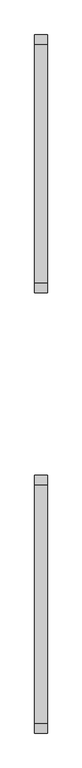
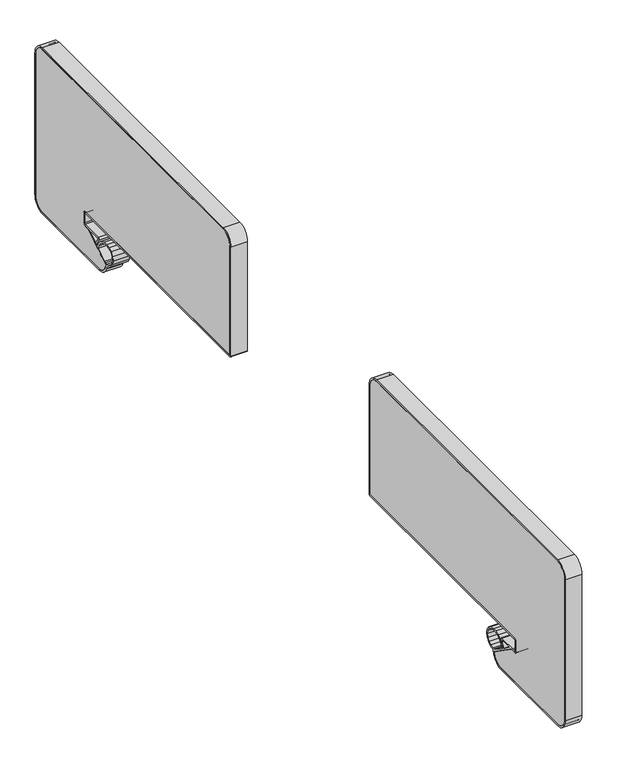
"""IFC4 building model written with IfcOpenShell, lengths in millimetres: furniture geometry, Vitra-Joyn_2-Accesories_rfa : Joyn 2 Platform - Side screen, dual."""

import ifcopenshell
import ifcopenshell.guid

model = None  # the IFC model being written
_history = None  # IfcOwnerHistory: only IFC2X3 demands one
_inside = {}  # id of a spatial element -> (the spatial element, [elements in it])
_under = {}  # id of a project, library or spatial element -> (it, [spatial elements below it])
_declared = {}  # id of a project -> (the project, [libraries it declares])
_typed = {}  # id of a type object -> (the type object, [elements of that type])
_made_of = {}  # id of a material, layer set ... -> (it, [elements and type objects made of it])


def new_model(schema):
    """Start an empty IFC model of exactly this schema.

    Asked for "IFC4X3", IfcOpenShell would pick the latest addendum, in which some entities
    have other attributes; the version numbers below select the first issue.
    IFC2X3 requires an IfcOwnerHistory on every rooted entity: one is made here for all.
    """
    global model, _history
    if schema == "IFC4X3":
        model = ifcopenshell.file(schema_version=(4, 3, 0, 0))
    else:
        model = ifcopenshell.file(schema=schema)
    _inside.clear()
    _under.clear()
    _declared.clear()
    _typed.clear()
    _made_of.clear()
    _history = None
    if model.schema == "IFC2X3":
        org = make("IfcOrganization", Name="unknown")
        user = make(
            "IfcPersonAndOrganization",
            ThePerson=make("IfcPerson", FamilyName="unknown"),
            TheOrganization=org,
        )
        app = make(
            "IfcApplication",
            ApplicationDeveloper=org,
            Version="unknown",
            ApplicationFullName="unknown",
            ApplicationIdentifier="unknown",
        )
        _history = make(
            "IfcOwnerHistory",
            OwningUser=user,
            OwningApplication=app,
            ChangeAction="ADDED",
            CreationDate=0,
        )
    return model


def make(cls, **values):
    """One entity of the class cls with the attributes given. An attribute that is None is left unset."""
    return model.create_entity(
        cls, **{name: value for name, value in values.items() if value is not None}
    )


def rooted(cls, **values):
    """An entity with a GlobalId (a new one), such as an element, a storey or a relation."""
    return make(cls, GlobalId=ifcopenshell.guid.new(), OwnerHistory=_history, **values)


def si_unit(unit_type, name, prefix=None):
    """IfcSIUnit, for example si_unit("LENGTHUNIT", "METRE", prefix="MILLI")."""
    return make("IfcSIUnit", UnitType=unit_type, Prefix=prefix, Name=name)


def assignment(units):
    """IfcUnitAssignment: the units of a project."""
    return None if units is None else make("IfcUnitAssignment", Units=units)


def point(xyz):
    """IfcCartesianPoint."""
    return None if xyz is None else make("IfcCartesianPoint", Coordinates=xyz)


def direction(xyz):
    """IfcDirection."""
    return None if xyz is None else make("IfcDirection", DirectionRatios=xyz)


def frame(location, z_axis=None, x_axis=None):
    """IfcAxis2Placement3D, a coordinate frame: its origin and axes. An axis left out is left unset."""
    return make(
        "IfcAxis2Placement3D",
        Location=point(location),
        Axis=direction(z_axis),
        RefDirection=direction(x_axis),
    )


def frame_2d(location, x_axis=None):
    """IfcAxis2Placement2D, a coordinate frame in the plane: its origin and x axis."""
    return make(
        "IfcAxis2Placement2D", Location=point(location), RefDirection=direction(x_axis)
    )


def origin():
    """The frame at (0, 0, 0) with its axes left unset."""
    return frame((0.0, 0.0, 0.0))


def place(relative_to, where):
    """IfcLocalPlacement: puts the frame where relative to a parent placement (None: the world)."""
    return make(
        "IfcLocalPlacement", PlacementRelTo=relative_to, RelativePlacement=where
    )


def context(
    kind, dimensions, precision=None, world=None, true_north=None, identifier=None
):
    """IfcGeometricRepresentationContext, for example the 3D "Model" context."""
    return make(
        "IfcGeometricRepresentationContext",
        ContextIdentifier=identifier,
        ContextType=kind,
        CoordinateSpaceDimension=dimensions,
        Precision=precision,
        WorldCoordinateSystem=world,
        TrueNorth=true_north,
    )


def project(units=None, contexts=None):
    """IfcProject with its units and contexts."""
    return rooted(
        "IfcProject",
        Name="project",
        RepresentationContexts=contexts,
        UnitsInContext=assignment(units),
    )


def spatial(cls, under=None, at=None, **own):
    """A site, building, storey or space (cls), placed at a placement, below another one or the project."""
    s = rooted(cls, ObjectPlacement=at, **own)
    if under is not None:
        _under.setdefault(under.id(), (under, []))[1].append(s)
    return s


def polyline(points):
    """IfcPolyline through the points."""
    return make("IfcPolyline", Points=[point(p) for p in points])


def circle_curve(where, radius):
    """IfcCircle in the frame where."""
    return make("IfcCircle", Position=where, Radius=radius)


def trimmed(basis, trim1, trim2, sense, master):
    """IfcTrimmedCurve: the piece of a basis curve between two trims."""
    return make(
        "IfcTrimmedCurve",
        BasisCurve=basis,
        Trim1=trim1,
        Trim2=trim2,
        SenseAgreement=sense,
        MasterRepresentation=master,
    )


def segment(curve, same_sense, transition):
    """IfcCompositeCurveSegment."""
    return make(
        "IfcCompositeCurveSegment",
        Transition=transition,
        SameSense=same_sense,
        ParentCurve=curve,
    )


def composite_curve(segments, self_intersect=None):
    """IfcCompositeCurve: segments joined end to end."""
    return make("IfcCompositeCurve", Segments=segments, SelfIntersect=self_intersect)


def outline(outer, holes=None, kind="AREA"):
    """IfcArbitraryClosedProfileDef: a profile drawn as a closed curve; with holes, ...WithVoids."""
    if holes is None:
        return make("IfcArbitraryClosedProfileDef", ProfileType=kind, OuterCurve=outer)
    return make(
        "IfcArbitraryProfileDefWithVoids",
        ProfileType=kind,
        OuterCurve=outer,
        InnerCurves=holes,
    )


def extrude(swept, where, along, depth):
    """IfcExtrudedAreaSolid: the profile swept, set in the frame where, extruded along a direction by depth."""
    return make(
        "IfcExtrudedAreaSolid",
        SweptArea=swept,
        Position=where,
        ExtrudedDirection=direction(along),
        Depth=depth,
    )


def shape(context_of_items, identifier, shape_type, items):
    """IfcShapeRepresentation: the items that make up one representation, for example the "Body"."""
    return make(
        "IfcShapeRepresentation",
        ContextOfItems=context_of_items,
        RepresentationIdentifier=identifier,
        RepresentationType=shape_type,
        Items=items,
    )


def source(mapping_origin, context_of_items, identifier, shape_type, items):
    """IfcRepresentationMap: a shape defined once, which mapped items show again and again."""
    return make(
        "IfcRepresentationMap",
        MappingOrigin=mapping_origin,
        MappedRepresentation=shape(context_of_items, identifier, shape_type, items),
    )


def transform(
    local_origin,
    x_axis=None,
    y_axis=None,
    z_axis=None,
    scale=None,
    scale2=None,
    scale3=None,
    uniform=True,
):
    """IfcCartesianTransformationOperator3D, or its non-uniform kind. x_axis, y_axis, z_axis: its Axis1, 2, 3."""
    if uniform:
        return make(
            "IfcCartesianTransformationOperator3D",
            Axis1=direction(x_axis),
            Axis2=direction(y_axis),
            LocalOrigin=point(local_origin),
            Scale=scale,
            Axis3=direction(z_axis),
        )
    return make(
        "IfcCartesianTransformationOperator3DnonUniform",
        Axis1=direction(x_axis),
        Axis2=direction(y_axis),
        LocalOrigin=point(local_origin),
        Scale=scale,
        Axis3=direction(z_axis),
        Scale2=scale2,
        Scale3=scale3,
    )


def mapped(mapping_source, mapping_target):
    """IfcMappedItem: shows the shape of a source again, moved by a transform."""
    return make(
        "IfcMappedItem", MappingSource=mapping_source, MappingTarget=mapping_target
    )


def made_of(thing, what):
    """Note that an element or type object is made of a material, layer set ...; save() writes the relation."""
    if what is not None:
        _made_of.setdefault(what.id(), (what, []))[1].append(thing)
    return thing


def element(
    cls,
    number,
    at=None,
    inside=None,
    cuts=None,
    type_object=None,
    material=None,
    context=None,
    identifier="Body",
    shape_type=None,
    held_by="IfcProductDefinitionShape",
    body=None,
    shapes=None,
    **own,
):
    """One element of the class cls, such as IfcWall. Its Tag is "e" and its number.

    at: its placement. inside: the storey or other place that contains it. cuts: it is an
    opening in that element (IfcRelVoidsElement). A single representation is given by context,
    identifier, shape_type and body (its items); several are given by shapes. held_by: the class
    of the entity that holds the representations. save() writes the other relations.
    """
    e = rooted(cls, Tag="e%d" % number, ObjectPlacement=at, **own)
    if body is not None:
        shapes = [shape(context, identifier, shape_type, body)]
    if shapes is not None:
        e.Representation = make(held_by, Representations=shapes)
    if inside is not None:
        _inside.setdefault(inside.id(), (inside, []))[1].append(e)
    if cuts is not None:
        rooted(
            "IfcRelVoidsElement", RelatingBuildingElement=cuts, RelatedOpeningElement=e
        )
    if type_object is not None:
        _typed.setdefault(type_object.id(), (type_object, []))[1].append(e)
    return made_of(e, material)


def aggregate(whole, parts):
    """IfcRelAggregates: a whole, such as a stair, and the parts it consists of."""
    return rooted("IfcRelAggregates", RelatingObject=whole, RelatedObjects=parts)


def save(model, path):
    """Write the relations noted so far, then the file.

    IfcRelAggregates (storeys below a building ...), IfcRelContainedInSpatialStructure (elements
    in a storey), IfcRelDefinesByType, IfcRelAssociatesMaterial and IfcRelDeclares: one each for
    every whole, place, type object, material and project.
    """
    for whole, parts in _under.values():
        aggregate(whole, parts)
    for where, things in _inside.values():
        rooted(
            "IfcRelContainedInSpatialStructure",
            RelatedElements=things,
            RelatingStructure=where,
        )
    for kind, things in _typed.values():
        rooted("IfcRelDefinesByType", RelatedObjects=things, RelatingType=kind)
    for what, things in _made_of.values():
        rooted("IfcRelAssociatesMaterial", RelatedObjects=things, RelatingMaterial=what)
    for by, libraries in _declared.values():
        rooted("IfcRelDeclares", RelatingContext=by, RelatedDefinitions=libraries)
    model.write(path)


def furniture_8c58d9b5(model_context):
    return source(origin(), model_context, "Body", "SweptSolid", [
        extrude(outline(composite_curve([segment(trimmed(circle_curve(frame_2d((-304.438008, 1007.00691)), 26.0), [point((-304.438008, 1033.00691))], [point((-278.438008, 1007.00691))], False, "CARTESIAN"), True, "CONTINUOUS"), segment(polyline([(-278.438008, 1007.00691), (-278.438008, 744.0002894), (-852.0000768, 744.0002894)]), True, "CONTINUOUS"), segment(trimmed(circle_curve(frame_2d((-852.0000768, 737.5002894)), 6.5), [point((-852.0000768, 744.0002894))], [point((-858.5000768, 737.5002894))], True, "CARTESIAN"), True, "CONTINUOUS"), segment(polyline([(-858.5000768, 737.5002894), (-858.5000768, 715.0)]), True, "CONTINUOUS"), segment(trimmed(circle_curve(frame_2d((-852.0000768, 715.0)), 6.5), [point((-858.5000768, 715.0))], [point((-852.0000768, 708.5))], True, "CARTESIAN"), True, "CONTINUOUS"), segment(polyline([(-852.0000768, 708.5), (-837.7490284, 708.5), (-771.6733848, 662.1205445)]), True, "CONTINUOUS"), segment(trimmed(circle_curve(frame_2d((-797.6774764, 665.1686456)), 26.1821256), [point((-771.6733848, 662.1205445))], [point((-797.6774764, 638.98652))], False, "CARTESIAN"), True, "CONTINUOUS"), segment(polyline([(-797.6774764, 638.98652), (-1022.440688, 638.98652)]), True, "CONTINUOUS"), segment(trimmed(circle_curve(frame_2d((-1022.440688, 664.98652)), 26.0), [point((-1022.440688, 638.98652))], [point((-1048.440688, 664.98652))], False, "CARTESIAN"), True, "CONTINUOUS"), segment(polyline([(-1048.440688, 664.98652), (-1048.440688, 1007.00691)]), True, "CONTINUOUS"), segment(trimmed(circle_curve(frame_2d((-1022.440688, 1007.00691)), 26.0), [point((-1048.440688, 1007.00691))], [point((-1022.440688, 1033.00691))], False, "CARTESIAN"), True, "CONTINUOUS"), segment(polyline([(-1022.440688, 1033.00691), (-304.438008, 1033.00691)]), True, "CONTINUOUS")], self_intersect=False)), frame((-19.0, 0.0, 0.0), z_axis=(1.0, 0.0, 0.0), x_axis=(0.0, 1.0, 0.0)), (0.0, 0.0, 1.0), 38.0),
        extrude(outline(composite_curve([segment(trimmed(circle_curve(frame_2d((-278.438008, 744.0002894)), 4.0), [point((-274.438008, 744.0002894))], [point((-278.438008, 740.0002894))], False, "CARTESIAN"), True, "CONTINUOUS"), segment(polyline([(-278.438008, 740.0002894), (-852.0000768, 740.0002894)]), True, "CONTINUOUS"), segment(trimmed(circle_curve(frame_2d((-852.0000768, 737.5002894)), 2.5), [point((-852.0000768, 740.0002894))], [point((-854.5000768, 737.5002894))], True, "CARTESIAN"), True, "CONTINUOUS"), segment(polyline([(-854.5000768, 737.5002894), (-854.5000768, 715.0)]), True, "CONTINUOUS"), segment(trimmed(circle_curve(frame_2d((-852.0000768, 715.0)), 2.5), [point((-854.5000768, 715.0))], [point((-852.0000768, 712.5))], True, "CARTESIAN"), True, "CONTINUOUS"), segment(polyline([(-852.0000768, 712.5), (-801.2274653, 712.5)]), True, "CONTINUOUS"), segment(trimmed(circle_curve(frame_2d((-801.2274653, 709.0)), 3.5), [point((-801.2274653, 712.5))], [point((-798.5846298, 706.7053495))], False, "CARTESIAN"), True, "CONTINUOUS"), segment(trimmed(circle_curve(frame_2d((-765.6595158, 678.1180127)), 43.603887), [point((-798.5846298, 706.7053495))], [point((-807.0632976, 691.7937507))], True, "CARTESIAN"), True, "CONTINUOUS"), segment(polyline([(-807.0632976, 691.7937507), (-803.7351207, 689.4633361), (-800.476099, 696.709743), (-794.650393, 705.115306), (-786.6638618, 711.6714181), (-776.41954, 715.0), (-766.719843, 715.0), (-756.981111, 713.241365), (-748.444508, 708.678315), (-743.069538, 700.266619), (-741.246608, 690.484562), (-743.187678, 680.726132), (-748.502728, 672.311559), (-756.940923, 666.571188), (-766.0871493, 663.5615666), (-769.374033, 654.68648)]), True, "CONTINUOUS"), segment(trimmed(circle_curve(frame_2d((-797.6774764, 665.1686456)), 30.1821256), [point((-769.374033, 654.68648))], [point((-797.6774764, 634.98652))], False, "CARTESIAN"), True, "CONTINUOUS"), segment(polyline([(-797.6774764, 634.98652), (-1022.440688, 634.98652)]), True, "CONTINUOUS"), segment(trimmed(circle_curve(frame_2d((-1022.440688, 664.98652)), 30.0), [point((-1022.440688, 634.98652))], [point((-1052.440688, 664.98652))], False, "CARTESIAN"), True, "CONTINUOUS"), segment(polyline([(-1052.440688, 664.98652), (-1052.440688, 1007.00691)]), True, "CONTINUOUS"), segment(trimmed(circle_curve(frame_2d((-1022.440688, 1007.00691)), 30.0), [point((-1052.440688, 1007.00691))], [point((-1022.440688, 1037.00691))], False, "CARTESIAN"), True, "CONTINUOUS"), segment(polyline([(-1022.440688, 1037.00691), (-304.438008, 1037.00691)]), True, "CONTINUOUS"), segment(trimmed(circle_curve(frame_2d((-304.438008, 1007.00691)), 30.0), [point((-304.438008, 1037.00691))], [point((-274.438008, 1007.00691))], False, "CARTESIAN"), True, "CONTINUOUS"), segment(polyline([(-274.438008, 1007.00691), (-274.438008, 744.0002894)]), True, "CONTINUOUS")], self_intersect=False), holes=[polyline([(-758.455683, 670.194316), (-751.433158, 675.028825), (-746.883208, 682.256866), (-745.246618, 690.484562), (-746.883208, 698.712254), (-751.366128, 705.845311), (-758.525577, 709.479623), (-766.702333, 710.910785), (-775.315629, 711.031199), (-784.421373, 708.1564), (-791.618238, 702.611651), (-796.863471, 694.992504), (-799.826408, 686.768579), (-775.132395, 669.435492), (-771.209808, 668.512387), (-766.746612, 668.09927), (-758.455683, 670.194316)]), composite_curve([segment(polyline([(-1022.440688, 638.98652), (-797.6774764, 638.98652)]), True, "CONTINUOUS"), segment(trimmed(circle_curve(frame_2d((-797.6774764, 665.1686456)), 26.1821256), [point((-797.6774764, 638.98652))], [point((-771.6733848, 662.1205445))], True, "CARTESIAN"), True, "CONTINUOUS"), segment(polyline([(-771.6733848, 662.1205445), (-837.7490284, 708.5), (-852.0000768, 708.5)]), True, "CONTINUOUS"), segment(trimmed(circle_curve(frame_2d((-852.0000768, 715.0)), 6.5), [point((-852.0000768, 708.5))], [point((-858.5000768, 715.0))], False, "CARTESIAN"), True, "CONTINUOUS"), segment(polyline([(-858.5000768, 715.0), (-858.5000768, 737.5002894)]), True, "CONTINUOUS"), segment(trimmed(circle_curve(frame_2d((-852.0000768, 737.5002894)), 6.5), [point((-858.5000768, 737.5002894))], [point((-852.0000768, 744.0002894))], False, "CARTESIAN"), True, "CONTINUOUS"), segment(polyline([(-852.0000768, 744.0002894), (-278.438008, 744.0002894), (-278.438008, 1007.00691)]), True, "CONTINUOUS"), segment(trimmed(circle_curve(frame_2d((-304.438008, 1007.00691)), 26.0), [point((-278.438008, 1007.00691))], [point((-304.438008, 1033.00691))], True, "CARTESIAN"), True, "CONTINUOUS"), segment(polyline([(-304.438008, 1033.00691), (-1022.440688, 1033.00691)]), True, "CONTINUOUS"), segment(trimmed(circle_curve(frame_2d((-1022.440688, 1007.00691)), 26.0), [point((-1022.440688, 1033.00691))], [point((-1048.440688, 1007.00691))], True, "CARTESIAN"), True, "CONTINUOUS"), segment(polyline([(-1048.440688, 1007.00691), (-1048.440688, 664.98652)]), True, "CONTINUOUS"), segment(trimmed(circle_curve(frame_2d((-1022.440688, 664.98652)), 26.0), [point((-1048.440688, 664.98652))], [point((-1022.440688, 638.98652))], True, "CARTESIAN"), True, "CONTINUOUS")], self_intersect=False), composite_curve([segment(trimmed(circle_curve(frame_2d((-765.6595158, 678.1180127)), 47.603887), [point((-810.4734399, 694.1754801))], [point((-803.6988247, 706.7386527))], False, "CARTESIAN"), True, "CONTINUOUS"), segment(trimmed(circle_curve(frame_2d((-804.5778126, 707.4)), 1.1), [point((-803.6988247, 706.7386527))], [point((-804.5778126, 708.5))], True, "CARTESIAN"), True, "CONTINUOUS"), segment(polyline([(-804.5778126, 708.5), (-828.4020148, 708.5), (-828.4020148, 706.7352426), (-810.4734399, 694.1754801)]), True, "CONTINUOUS")], self_intersect=False)]), frame((-19.0, 0.0, 0.0), z_axis=(1.0, 0.0, 0.0), x_axis=(0.0, 1.0, 0.0)), (0.0, 0.0, 1.0), 38.0),
        extrude(outline(composite_curve([segment(polyline([(304.438008, 1033.00691), (1022.440688, 1033.00691)]), True, "CONTINUOUS"), segment(trimmed(circle_curve(frame_2d((1022.440688, 1007.00691)), 26.0), [point((1022.440688, 1033.00691))], [point((1048.440688, 1007.00691))], False, "CARTESIAN"), True, "CONTINUOUS"), segment(polyline([(1048.440688, 1007.00691), (1048.440688, 664.98652)]), True, "CONTINUOUS"), segment(trimmed(circle_curve(frame_2d((1022.440688, 664.98652)), 26.0), [point((1048.440688, 664.98652))], [point((1022.440688, 638.98652))], False, "CARTESIAN"), True, "CONTINUOUS"), segment(polyline([(1022.440688, 638.98652), (797.6774764, 638.98652)]), True, "CONTINUOUS"), segment(trimmed(circle_curve(frame_2d((797.6774764, 665.1686456)), 26.1821256), [point((797.6774764, 638.98652))], [point((771.6733848, 662.1205445))], False, "CARTESIAN"), True, "CONTINUOUS"), segment(polyline([(771.6733848, 662.1205445), (837.7490284, 708.5), (852.0000768, 708.5)]), True, "CONTINUOUS"), segment(trimmed(circle_curve(frame_2d((852.0000768, 715.0)), 6.5), [point((852.0000768, 708.5))], [point((858.5000768, 715.0))], True, "CARTESIAN"), True, "CONTINUOUS"), segment(polyline([(858.5000768, 715.0), (858.5000768, 737.5002894)]), True, "CONTINUOUS"), segment(trimmed(circle_curve(frame_2d((852.0000768, 737.5002894)), 6.5), [point((858.5000768, 737.5002894))], [point((852.0000768, 744.0002894))], True, "CARTESIAN"), True, "CONTINUOUS"), segment(polyline([(852.0000768, 744.0002894), (278.438008, 744.0002894), (278.438008, 1007.00691)]), True, "CONTINUOUS"), segment(trimmed(circle_curve(frame_2d((304.438008, 1007.00691)), 26.0), [point((278.438008, 1007.00691))], [point((304.438008, 1033.00691))], False, "CARTESIAN"), True, "CONTINUOUS")], self_intersect=False)), frame((-19.0, 0.0, 0.0), z_axis=(1.0, 0.0, 0.0), x_axis=(0.0, 1.0, 0.0)), (0.0, 0.0, 1.0), 38.0),
        extrude(outline(composite_curve([segment(polyline([(274.438008, 744.0002894), (274.438008, 1007.00691)]), True, "CONTINUOUS"), segment(trimmed(circle_curve(frame_2d((304.438008, 1007.00691)), 30.0), [point((274.438008, 1007.00691))], [point((304.438008, 1037.00691))], False, "CARTESIAN"), True, "CONTINUOUS"), segment(polyline([(304.438008, 1037.00691), (1022.440688, 1037.00691)]), True, "CONTINUOUS"), segment(trimmed(circle_curve(frame_2d((1022.440688, 1007.00691)), 30.0), [point((1022.440688, 1037.00691))], [point((1052.440688, 1007.00691))], False, "CARTESIAN"), True, "CONTINUOUS"), segment(polyline([(1052.440688, 1007.00691), (1052.440688, 664.98652)]), True, "CONTINUOUS"), segment(trimmed(circle_curve(frame_2d((1022.440688, 664.98652)), 30.0), [point((1052.440688, 664.98652))], [point((1022.440688, 634.98652))], False, "CARTESIAN"), True, "CONTINUOUS"), segment(polyline([(1022.440688, 634.98652), (797.6774764, 634.98652)]), True, "CONTINUOUS"), segment(trimmed(circle_curve(frame_2d((797.6774764, 665.1686456)), 30.1821256), [point((797.6774764, 634.98652))], [point((769.374033, 654.68648))], False, "CARTESIAN"), True, "CONTINUOUS"), segment(polyline([(769.374033, 654.68648), (766.0871493, 663.5615666), (756.940923, 666.571188), (748.502728, 672.311559), (743.187678, 680.726132), (741.246608, 690.484562), (743.069538, 700.266619), (748.444508, 708.678315), (756.981111, 713.241365), (766.719843, 715.0), (776.41954, 715.0), (786.6638618, 711.6714181), (794.650393, 705.115306), (800.476099, 696.709743), (803.7351207, 689.4633361), (807.0632976, 691.7937507)]), True, "CONTINUOUS"), segment(trimmed(circle_curve(frame_2d((765.6595158, 678.1180127)), 43.603887), [point((807.0632976, 691.7937507))], [point((798.5846298, 706.7053495))], True, "CARTESIAN"), True, "CONTINUOUS"), segment(trimmed(circle_curve(frame_2d((801.2274653, 709.0)), 3.5), [point((798.5846298, 706.7053495))], [point((801.2274653, 712.5))], False, "CARTESIAN"), True, "CONTINUOUS"), segment(polyline([(801.2274653, 712.5), (852.0000768, 712.5)]), True, "CONTINUOUS"), segment(trimmed(circle_curve(frame_2d((852.0000768, 715.0)), 2.5), [point((852.0000768, 712.5))], [point((854.5000768, 715.0))], True, "CARTESIAN"), True, "CONTINUOUS"), segment(polyline([(854.5000768, 715.0), (854.5000768, 737.5002894)]), True, "CONTINUOUS"), segment(trimmed(circle_curve(frame_2d((852.0000768, 737.5002894)), 2.5), [point((854.5000768, 737.5002894))], [point((852.0000768, 740.0002894))], True, "CARTESIAN"), True, "CONTINUOUS"), segment(polyline([(852.0000768, 740.0002894), (278.438008, 740.0002894)]), True, "CONTINUOUS"), segment(trimmed(circle_curve(frame_2d((278.438008, 744.0002894)), 4.0), [point((278.438008, 740.0002894))], [point((274.438008, 744.0002894))], False, "CARTESIAN"), True, "CONTINUOUS")], self_intersect=False), holes=[polyline([(758.455683, 670.194316), (766.746612, 668.09927), (771.209808, 668.512387), (775.132395, 669.435492), (799.826408, 686.768579), (796.863471, 694.992504), (791.618238, 702.611651), (784.421373, 708.1564), (775.315629, 711.031199), (766.702333, 710.910785), (758.525577, 709.479623), (751.366128, 705.845311), (746.883208, 698.712254), (745.246618, 690.484562), (746.883208, 682.256866), (751.433158, 675.028825), (758.455683, 670.194316)]), composite_curve([segment(trimmed(circle_curve(frame_2d((1022.440688, 664.98652)), 26.0), [point((1022.440688, 638.98652))], [point((1048.440688, 664.98652))], True, "CARTESIAN"), True, "CONTINUOUS"), segment(polyline([(1048.440688, 664.98652), (1048.440688, 1007.00691)]), True, "CONTINUOUS"), segment(trimmed(circle_curve(frame_2d((1022.440688, 1007.00691)), 26.0), [point((1048.440688, 1007.00691))], [point((1022.440688, 1033.00691))], True, "CARTESIAN"), True, "CONTINUOUS"), segment(polyline([(1022.440688, 1033.00691), (304.438008, 1033.00691)]), True, "CONTINUOUS"), segment(trimmed(circle_curve(frame_2d((304.438008, 1007.00691)), 26.0), [point((304.438008, 1033.00691))], [point((278.438008, 1007.00691))], True, "CARTESIAN"), True, "CONTINUOUS"), segment(polyline([(278.438008, 1007.00691), (278.438008, 744.0002894), (852.0000768, 744.0002894)]), True, "CONTINUOUS"), segment(trimmed(circle_curve(frame_2d((852.0000768, 737.5002894)), 6.5), [point((852.0000768, 744.0002894))], [point((858.5000768, 737.5002894))], False, "CARTESIAN"), True, "CONTINUOUS"), segment(polyline([(858.5000768, 737.5002894), (858.5000768, 715.0)]), True, "CONTINUOUS"), segment(trimmed(circle_curve(frame_2d((852.0000768, 715.0)), 6.5), [point((858.5000768, 715.0))], [point((852.0000768, 708.5))], False, "CARTESIAN"), True, "CONTINUOUS"), segment(polyline([(852.0000768, 708.5), (837.7490284, 708.5), (771.6733848, 662.1205445)]), True, "CONTINUOUS"), segment(trimmed(circle_curve(frame_2d((797.6774764, 665.1686456)), 26.1821256), [point((771.6733848, 662.1205445))], [point((797.6774764, 638.98652))], True, "CARTESIAN"), True, "CONTINUOUS"), segment(polyline([(797.6774764, 638.98652), (1022.440688, 638.98652)]), True, "CONTINUOUS")], self_intersect=False), composite_curve([segment(polyline([(810.4734399, 694.1754801), (828.4020148, 706.7352426), (828.4020148, 708.5), (804.5778126, 708.5)]), True, "CONTINUOUS"), segment(trimmed(circle_curve(frame_2d((804.5778126, 707.4)), 1.1), [point((804.5778126, 708.5))], [point((803.6988247, 706.7386527))], True, "CARTESIAN"), True, "CONTINUOUS"), segment(trimmed(circle_curve(frame_2d((765.6595158, 678.1180127)), 47.603887), [point((803.6988247, 706.7386527))], [point((810.4734399, 694.1754801))], False, "CARTESIAN"), True, "CONTINUOUS")], self_intersect=False)]), frame((-19.0, 0.0, 0.0), z_axis=(1.0, 0.0, 0.0), x_axis=(0.0, 1.0, 0.0)), (0.0, 0.0, 1.0), 38.0),
    ])


if __name__ == "__main__":
    model = new_model("IFC4")
    model_context = context("Model", 3, world=origin())
    ifc_project = project(units=[si_unit("LENGTHUNIT", "METRE", prefix="MILLI")], contexts=[model_context])
    site = spatial("IfcSite", under=ifc_project)
    building = spatial("IfcBuilding", under=site)
    placement = place(None, origin())
    furniture_shape = furniture_8c58d9b5(model_context)
    element("IfcFurniture", 1, ObjectType="Vitra-Joyn_2-Accesories_rfa : Joyn 2 Platform - Side screen, dual", at=placement, inside=building, context=model_context, shape_type="MappedRepresentation", body=[
        mapped(furniture_shape, transform((0.0, 0.0, 0.0), x_axis=(1.0, 0.0, 0.0), y_axis=(0.0, 1.0, 0.0), z_axis=(0.0, 0.0, 1.0))),
    ])
    save(model, "model.ifc")
